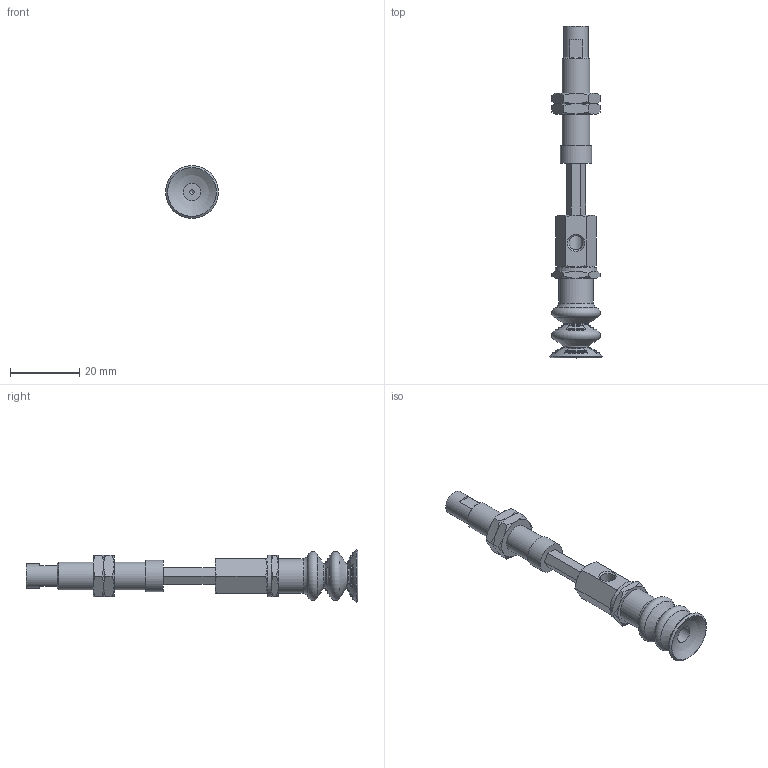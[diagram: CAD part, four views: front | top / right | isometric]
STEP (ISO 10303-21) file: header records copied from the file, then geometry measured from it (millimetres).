
FILE_DESCRIPTION(('STEP AP203'),'1');
FILE_NAME('.stp','2025-04-04T01:17:10',(' '),(' '),'Spatial InterOp 3D',' ',' ');
FILE_SCHEMA(('CONFIG_CONTROL_DESIGN'));
Length unit declared in the file: millimetre
Products named in the file (7): BNABPCYH-15-15-※; Adapter_napc-15-T; Connector_h-15-15; Nut napc_h-15-15; NAPCTH-15-15-FBODY; NAPCTH-15-15-MBODY; BPCG-15-※
Assembly tree (7 placements, depth 2):
  BNABPCYH-15-15-※
    Adapter_napc-15-T
    Connector_h-15-15
    Nut napc_h-15-15  x2
    NAPCTH-15-15-FBODY
    NAPCTH-15-15-MBODY
    BPCG-15-※
Bounding box: 15.2 x 95.7 x 15.2 mm (x, y, z)
Volume: 6075.3 mm3; surface area: 6286.1 mm2
Topology: 7 solids, 7 shells, 247 faces, 729 edges, 469 vertices
Faces by surface type: plane 70, cone 68, sphere 58, torus 34, cylinder 17
Full cylindrical faces by diameter (mm): 1.25 x1, 4.134 x3, 5 x6, 7 x1, 7.188 x2, 8 x1, 9 x1, 10 x1, 12 x1
Entity records: 7099 total; most frequent: CARTESIAN_POINT 1992, DIRECTION 1028, ORIENTED_EDGE 894, AXIS2_PLACEMENT_3D 473, EDGE_CURVE 447, VERTEX_POINT 312, EDGE_LOOP 310, FACE_OUTER_BOUND 248
